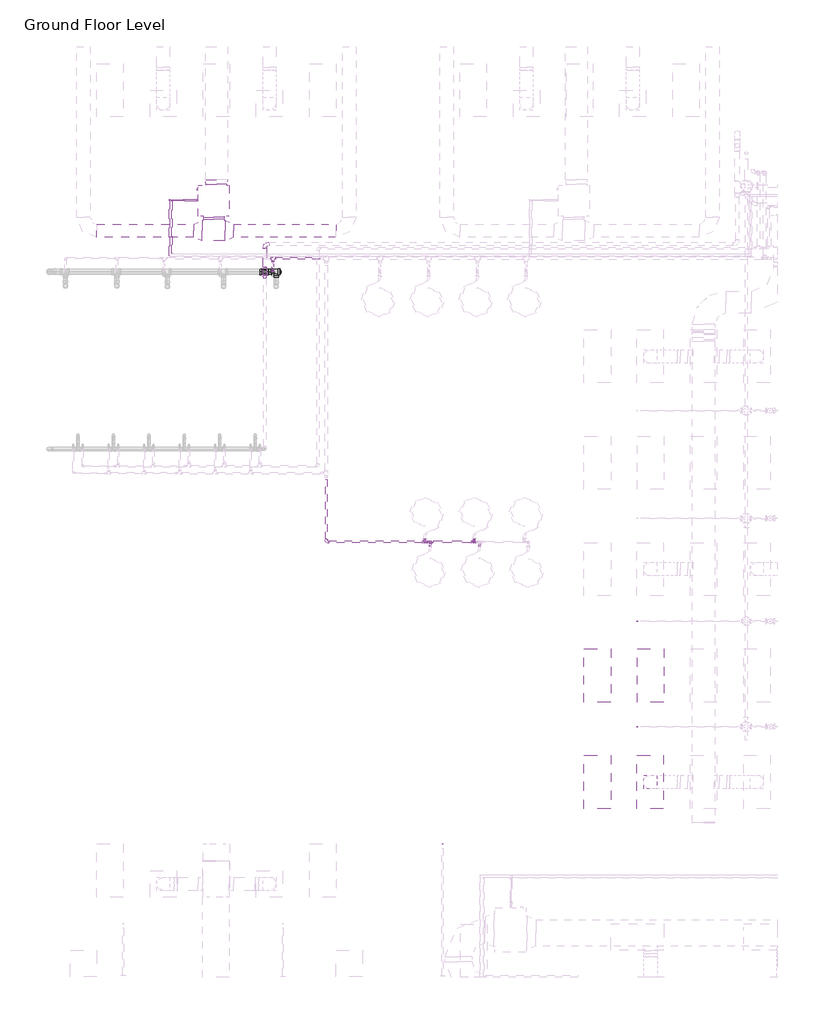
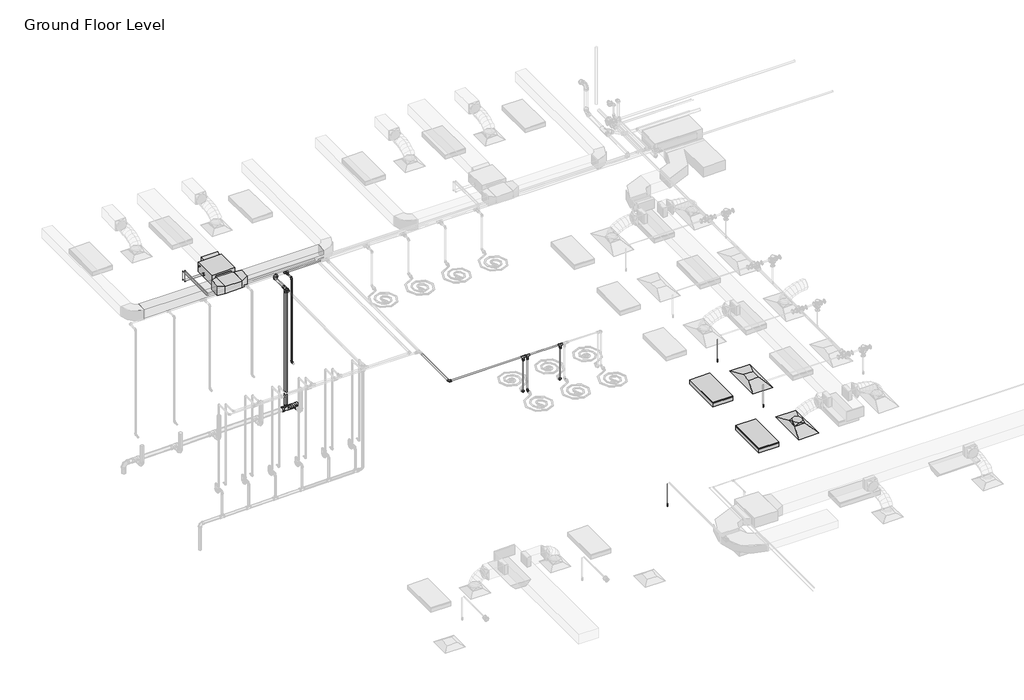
# One storey, part 43 of 74: 28 pipe segments, 24 pipe fittings, 5 duct fittings, 3 duct segments, 3 fire suppression terminals, 2 air terminals, 2 light fixtures, 1 proxy.
"""IFC4 building model written with IfcOpenShell, lengths in millimetres."""

from ifc_helpers import new_model, si_unit, point, frame, frame_2d, origin, place, context, project, spatial, polyline, circle_curve, trimmed, segment, composite_curve, outline, extrude, transform, mapped, element, save
from components import m_return_diffuser_1200x600_1200_x_600_face_300_x_300_d1983ef6, fcu_daikin_iu_bad131e0, m_rectangular_tee_standard_fa4de0e8, m_rectangular_transition_angle_45_degree_5a11b24e, m_rectangular_transition_angle_45_degree_6e5ad010, m_rectangular_to_round_transition_angle_45_degree_641efff0, m_sprinkler_dry_pendent_hosted_15_mm_dry_pendent_9bda8e11, m_troffer_light_parabolic_rectangular1_0600x1200mm_4_lamp_86473d4a, m_bend_pvc_sch_40_dwv_standard_1fdc8943, m_elbow_generic_standard_a088f956, m_elbow_generic_standard_2a704253, m_plug_pvc_sch_40_dwv_standard_6c40de1c, m_reducer_pvc_sch_40_dwv_standard_d6f2da47, m_tee_reducing_sanitary_pvc_sch_40_dwv_standard_b49161a9, m_tee_reducing_sanitary_pvc_sch_40_dwv_standard_35af4ecc, m_tee_reducing_sanitary_pvc_sch_40_dwv_standard_9cd1363b, standard_517a5a8d, standard_08ff6011, standard_d0d0b892, standard_69e4ce0e

model = new_model("IFC4")

# Units and contexts
model_context = context("Model", 3, world=origin())
ifc_project = project(units=[si_unit("LENGTHUNIT", "METRE", prefix="MILLI")], contexts=[model_context])

# Site, building, storey
site = spatial("IfcSite", under=ifc_project)
building = spatial("IfcBuilding", under=site)
storey = spatial("IfcBuildingStorey", under=building, Name="Ground Floor Level", Elevation=900.0)

# Air terminals
placement = place(None, origin())
m_return_diffuser_1200x600_1200_x_600_face_300_x_300_shape = m_return_diffuser_1200x600_1200_x_600_face_300_x_300_d1983ef6(model_context)
element("IfcAirTerminal", 1, ObjectType="M_Return Diffuser 1200x600 : 1200 x 600 Face 300 x 300 Connection", at=placement, inside=storey, context=model_context, shape_type="MappedRepresentation", body=[
    mapped(m_return_diffuser_1200x600_1200_x_600_face_300_x_300_shape, transform((-8137.2327605, 4035.2153534, 3650.0), x_axis=(0.0, 1.0, 0.0), y_axis=(-1.0, 0.0, 0.0), z_axis=(0.0, 0.0, 1.0))),
])
element("IfcAirTerminal", 2, ObjectType="M_Supply Diffuser 1200x600 : 1200 x 600 Face 300 x 300 Connection", at=placement, inside=storey, context=model_context, shape_type="MappedRepresentation", body=[
    mapped(m_return_diffuser_1200x600_1200_x_600_face_300_x_300_shape, transform((-8142.6846929, 1635.2153534, 3650.0), x_axis=(0.0, 1.0, 0.0), y_axis=(-1.0, 0.0, 0.0), z_axis=(0.0, 0.0, 1.0))),
])

# Proxy
fcu_daikin_iu_shape = fcu_daikin_iu_bad131e0(model_context)
element("IfcBuildingElementProxy", 3, Name="FCU-DAIKIN IU : 4.5kW, 230V/50Hz/1Ph", ObjectType="FCU-DAIKIN IU : 4.5kW, 230V/50Hz/1Ph", at=placement, inside=storey, context=model_context, shape_type="MappedRepresentation", body=[
    mapped(fcu_daikin_iu_shape, transform((-17997.2327605, 14745.2153534, 3934.0881511), x_axis=(-1.0, 0.0, 0.0), y_axis=(0.0, -1.0, 0.0), z_axis=(0.0, 0.0, 1.0))),
])

# Duct fittings
m_rectangular_tee_standard_shape = m_rectangular_tee_standard_fa4de0e8(model_context)
element("IfcDuctFitting", 4, ObjectType="M_Rectangular Tee : Standard", at=placement, inside=storey, context=model_context, shape_type="MappedRepresentation", body=[
    mapped(m_rectangular_tee_standard_shape, transform((-17997.2327605, 14069.8153534, 4075.2881511), x_axis=(-1.0, 0.0, 0.0), y_axis=(0.0, -1.0, 0.0), z_axis=(0.0, 0.0, 1.0))),
])
m_rectangular_transition_angle_45_degree_shape = m_rectangular_transition_angle_45_degree_5a11b24e(model_context)
element("IfcDuctFitting", 5, ObjectType="M_Rectangular Transition - Angle : 45 Degree", at=placement, inside=storey, context=model_context, shape_type="MappedRepresentation", body=[
    mapped(m_rectangular_transition_angle_45_degree_shape, transform((-17933.7327605, 15120.6153534, 4100.0006511), x_axis=(0.0, 1.0, 0.0), y_axis=(-1.0, 0.0, 0.0), z_axis=(0.0, 0.0, 1.0))),
])
m_rectangular_transition_angle_45_degree_2_shape = m_rectangular_transition_angle_45_degree_6e5ad010(model_context)
element("IfcDuctFitting", 6, ObjectType="M_Rectangular Transition - Angle : 45 Degree", at=placement, inside=storey, context=model_context, shape_type="MappedRepresentation", body=[
    mapped(m_rectangular_transition_angle_45_degree_2_shape, transform((-17741.2952605, 14069.8153534, 4075.2881511), x_axis=(1.0, 0.0, 0.0), y_axis=(0.0, 1.0, 0.0), z_axis=(0.0, 0.0, 1.0))),
])
element("IfcDuctFitting", 7, ObjectType="M_Rectangular Transition - Angle : 45 Degree", at=placement, inside=storey, context=model_context, shape_type="MappedRepresentation", body=[
    mapped(m_rectangular_transition_angle_45_degree_2_shape, transform((-18253.1702605, 14069.8153534, 4075.2881511), x_axis=(-1.0, 0.0, 0.0), y_axis=(0.0, -1.0, 0.0), z_axis=(0.0, 0.0, 1.0))),
])
m_rectangular_to_round_transition_angle_45_degree_shape = m_rectangular_to_round_transition_angle_45_degree_641efff0(model_context)
element("IfcDuctFitting", 8, ObjectType="M_Rectangular to Round Transition - Angle : 45 Degree", at=placement, inside=storey, context=model_context, shape_type="MappedRepresentation", body=[
    mapped(m_rectangular_to_round_transition_angle_45_degree_shape, transform((-8142.6846929, 1635.2153534, 3751.6), x_axis=(0.0, 0.0, 1.0), y_axis=(-1.0, 0.0, 0.0), z_axis=(0.0, -1.0, 0.0))),
])

# Duct segments
element("IfcDuctSegment", 9, ObjectType="Radius Elbows / Taps", at=placement, inside=storey, context=model_context, shape_type="SweptSolid", body=[
    extrude(outline(polyline([(-18228.1702605, 14369.8153534), (-17766.2952605, 14369.8153534), (-17766.2952605, 14325.7528534), (-18228.1702605, 14325.7528534), (-18228.1702605, 14369.8153534)])), frame((0.0, 0.0, 3968.1381511), z_axis=(0.0, 0.0, 1.0), x_axis=(1.0, 0.0, 0.0)), (0.0, 0.0, 1.0), 214.3),
])
element("IfcDuctSegment", 10, ObjectType="Radius Elbows / Taps", at=placement, inside=storey, context=model_context, shape_type="SweptSolid", body=[
    extrude(outline(polyline([(-17545.8948503, 13919.8153534), (-17545.8948503, 14219.8153534), (-15237.2327605, 14219.8153534), (-15237.2327605, 13919.8153534), (-17545.8948503, 13919.8153534)])), frame((0.0, 0.0, 3925.2881511), z_axis=(0.0, 0.0, 1.0), x_axis=(1.0, 0.0, 0.0)), (0.0, 0.0, 1.0), 300.0),
])
element("IfcDuctSegment", 11, ObjectType="Radius Elbows / Taps", at=placement, inside=storey, context=model_context, shape_type="SweptSolid", body=[
    extrude(outline(polyline([(-18448.5706707, 14219.8153534), (-18448.5706707, 13919.8153534), (-20637.2327605, 13919.8153534), (-20637.2327605, 14219.8153534), (-18448.5706707, 14219.8153534)])), frame((0.0, 0.0, 3925.2881511), z_axis=(0.0, 0.0, 1.0), x_axis=(1.0, 0.0, 0.0)), (0.0, 0.0, 1.0), 300.0),
])

# Fire suppression terminals
m_sprinkler_dry_pendent_hosted_15_mm_dry_pendent_shape = m_sprinkler_dry_pendent_hosted_15_mm_dry_pendent_9bda8e11(model_context)
element("IfcFireSuppressionTerminal", 12, ObjectType="M_Sprinkler - Dry - Pendent - Hosted : 15 mm Dry Pendent", at=placement, inside=storey, context=model_context, shape_type="MappedRepresentation", body=[
    mapped(m_sprinkler_dry_pendent_hosted_15_mm_dry_pendent_shape, transform((-8437.2327605, 5261.0372753, 3650.0), x_axis=(1.0, 0.0, 0.0), y_axis=(0.0, -1.0, 0.0), z_axis=(0.0, 0.0, -1.0))),
])
element("IfcFireSuppressionTerminal", 13, ObjectType="M_Sprinkler - Dry - Pendent - Hosted : 15 mm Dry Pendent", at=placement, inside=storey, context=model_context, shape_type="MappedRepresentation", body=[
    mapped(m_sprinkler_dry_pendent_hosted_15_mm_dry_pendent_shape, transform((-8437.2327605, 2881.5134565, 3650.0), x_axis=(1.0, 0.0, 0.0), y_axis=(0.0, -1.0, 0.0), z_axis=(0.0, 0.0, -1.0))),
])
element("IfcFireSuppressionTerminal", 14, ObjectType="M_Sprinkler - Dry - Pendent - Hosted : 15 mm Dry Pendent", at=placement, inside=storey, context=model_context, shape_type="MappedRepresentation", body=[
    mapped(m_sprinkler_dry_pendent_hosted_15_mm_dry_pendent_shape, transform((-12837.2327605, 235.2153534, 3650.0), x_axis=(1.0, 0.0, 0.0), y_axis=(0.0, -1.0, 0.0), z_axis=(0.0, 0.0, -1.0))),
])

# Light fixtures
m_troffer_light_parabolic_rectangular1_0600x1200mm_4_lamp_shape = m_troffer_light_parabolic_rectangular1_0600x1200mm_4_lamp_86473d4a(model_context)
element("IfcLightFixture", 15, ObjectType="M_Troffer Light - Parabolic Rectangular1 : 0600x1200mm(4 Lamp) - 277V 2", at=placement, inside=storey, context=model_context, shape_type="MappedRepresentation", body=[
    mapped(m_troffer_light_parabolic_rectangular1_0600x1200mm_4_lamp_shape, transform((-9396.6986926, 4053.918855, 3650.0), x_axis=(0.0, 1.0, 0.0), y_axis=(-1.0, 0.0, 0.0), z_axis=(0.0, 0.0, 1.0))),
])
element("IfcLightFixture", 16, ObjectType="M_Troffer Light - Parabolic Rectangular1 : 0600x1200mm(4 Lamp) - 277V 2", at=placement, inside=storey, context=model_context, shape_type="MappedRepresentation", body=[
    mapped(m_troffer_light_parabolic_rectangular1_0600x1200mm_4_lamp_shape, transform((-9396.6986926, 1653.918855, 3650.0), x_axis=(0.0, 1.0, 0.0), y_axis=(-1.0, 0.0, 0.0), z_axis=(0.0, 0.0, 1.0))),
])

# Pipe fittings
m_bend_pvc_sch_40_dwv_standard_shape = m_bend_pvc_sch_40_dwv_standard_1fdc8943(model_context)
element("IfcPipeFitting", 17, ObjectType="M_Bend - PVC - Sch 40 - DWV : Standard", at=placement, inside=storey, context=model_context, shape_type="MappedRepresentation", body=[
    mapped(m_bend_pvc_sch_40_dwv_standard_shape, transform((-16844.3158637, 13768.8048932, 4050.2768363), x_axis=(-0.9999500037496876, 0.0, -0.009999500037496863), y_axis=(0.0, -1.0, 0.0), z_axis=(-0.009999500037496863, 0.0, 0.9999500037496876))),
])
m_elbow_generic_standard_shape = m_elbow_generic_standard_a088f956(model_context)
element("IfcPipeFitting", 18, ObjectType="M_Elbow - Generic : Standard", at=placement, inside=storey, context=model_context, shape_type="MappedRepresentation", body=[
    mapped(m_elbow_generic_standard_shape, transform((-18945.3327605, 14745.2153534, 4034.0881511), x_axis=(-1.0, 0.0, 0.0), y_axis=(0.0, 0.0, 1.0), z_axis=(0.0, 1.0, 0.0))),
])
element("IfcPipeFitting", 19, ObjectType="M_Elbow - Generic : Standard", at=placement, inside=storey, context=model_context, shape_type="MappedRepresentation", body=[
    mapped(m_elbow_generic_standard_shape, transform((-18945.3327605, 14745.2153534, 4380.0), x_axis=(0.0, 0.0, 1.0), y_axis=(0.0, -1.0, 0.0), z_axis=(1.0, 0.0, 0.0))),
])
m_elbow_generic_standard_2_shape = m_elbow_generic_standard_2a704253(model_context)
element("IfcPipeFitting", 20, ObjectType="M_Elbow - Generic : Standard", at=placement, inside=storey, context=model_context, shape_type="MappedRepresentation", body=[
    mapped(m_elbow_generic_standard_2_shape, transform((-18995.0192947, 14770.2153534, 4365.0), x_axis=(0.0, 1.0, 0.0), y_axis=(0.0, 0.0, -1.0), z_axis=(-1.0, 0.0, 0.0))),
])
element("IfcPipeFitting", 21, ObjectType="M_Elbow - Generic : Standard", at=placement, inside=storey, context=model_context, shape_type="MappedRepresentation", body=[
    mapped(m_elbow_generic_standard_2_shape, transform((-18995.0192947, 14770.2153534, 4084.8881511), x_axis=(0.0, 0.0, -1.0), y_axis=(1.0, 0.0, 0.0), z_axis=(0.0, -1.0, 0.0))),
])
m_plug_pvc_sch_40_dwv_standard_shape = m_plug_pvc_sch_40_dwv_standard_6c40de1c(model_context)
element("IfcPipeFitting", 22, ObjectType="M_Plug - PVC - Sch 40 - DWV : Standard", at=placement, inside=storey, context=model_context, shape_type="MappedRepresentation", body=[
    mapped(m_plug_pvc_sch_40_dwv_standard_shape, transform((-16497.5246709, 13143.7240477, 252.0903992), x_axis=(0.9999500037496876, 0.0, 0.009999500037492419), y_axis=(0.0, 1.0, 0.0), z_axis=(-0.009999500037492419, 0.0, 0.9999500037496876))),
])
m_reducer_pvc_sch_40_dwv_standard_shape = m_reducer_pvc_sch_40_dwv_standard_d6f2da47(model_context)
element("IfcPipeFitting", 23, ObjectType="M_Reducer - PVC - Sch 40 - DWV : Standard", at=placement, inside=storey, context=model_context, shape_type="MappedRepresentation", body=[
    mapped(m_reducer_pvc_sch_40_dwv_standard_shape, transform((-16844.3158637, 13068.078397, 4049.9889294), x_axis=(0.0, -0.9999576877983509, -0.009199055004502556), y_axis=(1.0000000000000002, 0.0, 0.0), z_axis=(0.0, -0.009199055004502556, 0.9999576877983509))),
])
m_tee_reducing_sanitary_pvc_sch_40_dwv_standard_shape = m_tee_reducing_sanitary_pvc_sch_40_dwv_standard_b49161a9(model_context)
element("IfcPipeFitting", 24, ObjectType="M_Tee Reducing Sanitary - PVC - Sch 40 - DWV : Standard", at=placement, inside=storey, context=model_context, shape_type="MappedRepresentation", body=[
    mapped(m_tee_reducing_sanitary_pvc_sch_40_dwv_standard_shape, transform((-16586.4202262, 13143.7240477, 251.2014437), x_axis=(0.9999500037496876, 0.0, 0.009999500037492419), y_axis=(0.0, 1.0, 0.0), z_axis=(-0.009999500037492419, 0.0, 0.9999500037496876))),
])
m_tee_reducing_sanitary_pvc_sch_40_dwv_standard_2_shape = m_tee_reducing_sanitary_pvc_sch_40_dwv_standard_35af4ecc(model_context)
element("IfcPipeFitting", 25, ObjectType="M_Tee Reducing Sanitary - PVC - Sch 40 - DWV : Standard", at=placement, inside=storey, context=model_context, shape_type="MappedRepresentation", body=[
    mapped(m_tee_reducing_sanitary_pvc_sch_40_dwv_standard_2_shape, transform((-16844.3824695, 13143.7240477, 248.6218212), x_axis=(0.9999500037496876, 0.0, 0.00999950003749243), y_axis=(0.00999950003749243, 0.0, -0.9999500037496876), z_axis=(0.0, 1.0, 0.0))),
])
m_tee_reducing_sanitary_pvc_sch_40_dwv_standard_3_shape = m_tee_reducing_sanitary_pvc_sch_40_dwv_standard_9cd1363b(model_context)
element("IfcPipeFitting", 26, ObjectType="M_Tee Reducing Sanitary - PVC - Sch 40 - DWV : Standard", at=placement, inside=storey, context=model_context, shape_type="MappedRepresentation", body=[
    mapped(m_tee_reducing_sanitary_pvc_sch_40_dwv_standard_3_shape, transform((-16844.3158637, 13143.7240477, 4050.2768363), x_axis=(0.0, -1.0, 0.0), y_axis=(-2.9192257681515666e-06, 0.0, 0.9999999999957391), z_axis=(-0.9999999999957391, 0.0, -2.9192257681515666e-06))),
])
standard_shape = standard_517a5a8d(model_context)
element("IfcPipeFitting", 27, ObjectType="M_Elbow - CPVC - Sch 40 : Standard", at=placement, inside=storey, context=model_context, shape_type="MappedRepresentation", body=[
    mapped(standard_shape, transform((-16659.8589924, 13149.9865561, 4315.0), x_axis=(0.0, 0.0, 1.0), y_axis=(0.0, 1.0, 0.0), z_axis=(-1.0, 0.0, 0.0))),
])
element("IfcPipeFitting", 28, ObjectType="M_Elbow - CPVC - Sch 40 : Standard", at=placement, inside=storey, context=model_context, shape_type="MappedRepresentation", body=[
    mapped(standard_shape, transform((-16659.8589924, 13149.9865561, 1655.0), x_axis=(0.0, 0.0, -1.0), y_axis=(0.0, -1.0, 0.0), z_axis=(-1.0, 0.0, 0.0))),
])
element("IfcPipeFitting", 29, ObjectType="M_Elbow - CPVC - Sch 40 : Standard", at=placement, inside=storey, context=model_context, shape_type="MappedRepresentation", body=[
    mapped(standard_shape, transform((-13107.2327605, 7049.9865561, 3200.0), x_axis=(0.0, 0.0, -1.0), y_axis=(0.0, -1.0, 0.0), z_axis=(-1.0, 0.0, 0.0))),
])
element("IfcPipeFitting", 30, ObjectType="M_Elbow - CPVC - Sch 40 : Standard", at=placement, inside=storey, context=model_context, shape_type="MappedRepresentation", body=[
    mapped(standard_shape, transform((-13232.2327605, 7049.9865561, 3200.0), x_axis=(0.0, 0.0, -1.0), y_axis=(0.0, 1.0, 0.0), z_axis=(1.0, 0.0, 0.0))),
])
element("IfcPipeFitting", 31, ObjectType="M_Elbow - CPVC - Sch 40 : Standard", at=placement, inside=storey, context=model_context, shape_type="MappedRepresentation", body=[
    mapped(standard_shape, transform((-12122.2327605, 7049.9865561, 3200.0), x_axis=(0.0, 0.0, -1.0), y_axis=(0.0, 1.0, 0.0), z_axis=(1.0, 0.0, 0.0))),
])
standard_2_shape = standard_08ff6011(model_context)
element("IfcPipeFitting", 32, ObjectType="M_Tee - CPVC - Sch 40 : Standard", at=placement, inside=storey, context=model_context, shape_type="MappedRepresentation", body=[
    mapped(standard_2_shape, transform((-16659.8589924, 13449.9865561, 4315.0), x_axis=(-1.0, 0.0, 0.0), y_axis=(0.0, 1.0, 0.0), z_axis=(0.0, 0.0, -1.0))),
])
element("IfcPipeFitting", 33, ObjectType="M_Tee - CPVC - Sch 40 : Standard", at=placement, inside=storey, context=model_context, shape_type="MappedRepresentation", body=[
    mapped(standard_2_shape, transform((-13107.2327605, 7049.9865561, 4315.0), x_axis=(-1.0, 0.0, 0.0), y_axis=(0.0, 0.0, 1.0), z_axis=(0.0, 1.0, 0.0))),
])
element("IfcPipeFitting", 34, ObjectType="M_Tee - CPVC - Sch 40 : Standard", at=placement, inside=storey, context=model_context, shape_type="MappedRepresentation", body=[
    mapped(standard_2_shape, transform((-13232.2327605, 7049.9865561, 4315.0), x_axis=(-1.0, 0.0, 0.0), y_axis=(0.0, 0.0, 1.0), z_axis=(0.0, 1.0, 0.0))),
])
element("IfcPipeFitting", 35, ObjectType="M_Tee - CPVC - Sch 40 : Standard", at=placement, inside=storey, context=model_context, shape_type="MappedRepresentation", body=[
    mapped(standard_2_shape, transform((-12122.2327605, 7049.9865561, 4315.0), x_axis=(-1.0, 0.0, 0.0), y_axis=(0.0, 0.0, 1.0), z_axis=(0.0, 1.0, 0.0))),
])
standard_3_shape = standard_d0d0b892(model_context)
element("IfcPipeFitting", 36, ObjectType="M_Coupling Reducing - CPVC - Sch 40 : Standard", at=placement, inside=storey, context=model_context, shape_type="MappedRepresentation", body=[
    mapped(standard_3_shape, transform((-16659.8589924, 13396.0115561, 4315.0), x_axis=(0.0, -1.0, 0.0), y_axis=(1.0, 0.0, 0.0), z_axis=(0.0, 0.0, 1.0))),
])
element("IfcPipeFitting", 37, ObjectType="M_Coupling Reducing - CPVC - Sch 40 : Standard", at=placement, inside=storey, context=model_context, shape_type="MappedRepresentation", body=[
    mapped(standard_3_shape, transform((-13107.2327605, 7049.9865561, 4261.025), x_axis=(0.0, 0.0, -1.0), y_axis=(1.0, 0.0, 0.0), z_axis=(0.0, -1.0, 0.0))),
])
element("IfcPipeFitting", 38, ObjectType="M_Coupling Reducing - CPVC - Sch 40 : Standard", at=placement, inside=storey, context=model_context, shape_type="MappedRepresentation", body=[
    mapped(standard_3_shape, transform((-13232.2327605, 7049.9865561, 4261.025), x_axis=(0.0, 0.0, -1.0), y_axis=(-1.0, 0.0, 0.0), z_axis=(0.0, 1.0, 0.0))),
])
element("IfcPipeFitting", 39, ObjectType="M_Coupling Reducing - CPVC - Sch 40 : Standard", at=placement, inside=storey, context=model_context, shape_type="MappedRepresentation", body=[
    mapped(standard_3_shape, transform((-12122.2327605, 7049.9865561, 4261.025), x_axis=(0.0, 0.0, -1.0), y_axis=(-1.0, 0.0, 0.0), z_axis=(0.0, 1.0, 0.0))),
])
standard_4_shape = standard_69e4ce0e(model_context)
element("IfcPipeFitting", 40, ObjectType="M_Elbow - CPVC - Sch 40 : Standard", at=placement, inside=storey, context=model_context, shape_type="MappedRepresentation", body=[
    mapped(standard_4_shape, transform((-15455.6408298, 7049.9865561, 4315.0), x_axis=(0.0, -1.0, 0.0), y_axis=(1.0, 0.0, 0.0), z_axis=(0.0, 0.0, 1.0))),
])

# Pipe segments
element("IfcPipeSegment", 41, ObjectType="CPVC", at=placement, inside=storey, context=model_context, shape_type="SweptSolid", body=[
    extrude(outline(composite_curve([segment(trimmed(circle_curve(frame_2d((-16659.8589924, 13149.9865561)), 16.7005), [point((-16676.5594924, 13149.9865561))], [point((-16659.8589924, 13166.6870561))], False, "CARTESIAN"), True, "CONTINUOUS"), segment(trimmed(circle_curve(frame_2d((-16659.8589924, 13149.9865561)), 16.7005), [point((-16659.8589924, 13166.6870561))], [point((-16643.1584924, 13149.9865561))], False, "CARTESIAN"), True, "CONTINUOUS"), segment(trimmed(circle_curve(frame_2d((-16659.8589924, 13149.9865561)), 16.7005), [point((-16643.1584924, 13149.9865561))], [point((-16659.8589924, 13133.2860561))], False, "CARTESIAN"), True, "CONTINUOUS"), segment(trimmed(circle_curve(frame_2d((-16659.8589924, 13149.9865561)), 16.7005), [point((-16659.8589924, 13133.2860561))], [point((-16676.5594924, 13149.9865561))], False, "CARTESIAN"), True, "CONTINUOUS")], self_intersect=False)), frame((0.0, 0.0, 1698.26255), z_axis=(0.0, 0.0, 1.0), x_axis=(1.0, 0.0, 0.0)), (0.0, 0.0, 1.0), 2573.4749),
])
element("IfcPipeSegment", 42, ObjectType="CPVC", at=placement, inside=storey, context=model_context, shape_type="SweptSolid", body=[
    extrude(outline(composite_curve([segment(trimmed(circle_curve(frame_2d((4315.0, -16659.8589924)), 16.7005), [point((4315.0, -16643.1584924))], [point((4331.7005, -16659.8589924))], False, "CARTESIAN"), True, "CONTINUOUS"), segment(trimmed(circle_curve(frame_2d((4315.0, -16659.8589924)), 16.7005), [point((4331.7005, -16659.8589924))], [point((4315.0, -16676.5594924))], False, "CARTESIAN"), True, "CONTINUOUS"), segment(trimmed(circle_curve(frame_2d((4315.0, -16659.8589924)), 16.7005), [point((4315.0, -16676.5594924))], [point((4298.2995, -16659.8589924))], False, "CARTESIAN"), True, "CONTINUOUS"), segment(trimmed(circle_curve(frame_2d((4315.0, -16659.8589924)), 16.7005), [point((4298.2995, -16659.8589924))], [point((4315.0, -16643.1584924))], False, "CARTESIAN"), True, "CONTINUOUS")], self_intersect=False)), frame((0.0, 13193.2491061, 0.0), z_axis=(0.0, 1.0, 0.0), x_axis=(0.0, 0.0, 1.0)), (0.0, 0.0, 1.0), 136.643575),
])
element("IfcPipeSegment", 43, ObjectType="CPVC", at=placement, inside=storey, context=model_context, shape_type="SweptSolid", body=[
    extrude(outline(composite_curve([segment(trimmed(circle_curve(frame_2d((4315.0, -15455.6408298)), 21.082), [point((4315.0, -15476.7228298))], [point((4293.918, -15455.6408298))], False, "CARTESIAN"), True, "CONTINUOUS"), segment(trimmed(circle_curve(frame_2d((4315.0, -15455.6408298)), 21.082), [point((4293.918, -15455.6408298))], [point((4315.0, -15434.5588298))], False, "CARTESIAN"), True, "CONTINUOUS"), segment(trimmed(circle_curve(frame_2d((4315.0, -15455.6408298)), 21.082), [point((4315.0, -15434.5588298))], [point((4336.082, -15455.6408298))], False, "CARTESIAN"), True, "CONTINUOUS"), segment(trimmed(circle_curve(frame_2d((4315.0, -15455.6408298)), 21.082), [point((4336.082, -15455.6408298))], [point((4315.0, -15476.7228298))], False, "CARTESIAN"), True, "CONTINUOUS")], self_intersect=False)), frame((0.0, 7107.9303061, 0.0), z_axis=(0.0, 1.0, 0.0), x_axis=(0.0, 0.0, 1.0)), (0.0, 0.0, 1.0), 1355.4879172),
])
element("IfcPipeSegment", 44, ObjectType="CPVC", at=placement, inside=storey, context=model_context, shape_type="SweptSolid", body=[
    extrude(outline(composite_curve([segment(trimmed(circle_curve(frame_2d((13449.9865561, 4315.0)), 21.082), [point((13428.9045561, 4315.0))], [point((13449.9865561, 4336.082))], False, "CARTESIAN"), True, "CONTINUOUS"), segment(trimmed(circle_curve(frame_2d((13449.9865561, 4315.0)), 21.082), [point((13449.9865561, 4336.082))], [point((13471.0685561, 4315.0))], False, "CARTESIAN"), True, "CONTINUOUS"), segment(trimmed(circle_curve(frame_2d((13449.9865561, 4315.0)), 21.082), [point((13471.0685561, 4315.0))], [point((13449.9865561, 4293.918))], False, "CARTESIAN"), True, "CONTINUOUS"), segment(trimmed(circle_curve(frame_2d((13449.9865561, 4315.0)), 21.082), [point((13449.9865561, 4293.918))], [point((13428.9045561, 4315.0))], False, "CARTESIAN"), True, "CONTINUOUS")], self_intersect=False)), frame((-16605.8839924, 0.0, 0.0), z_axis=(1.0, 0.0, 0.0), x_axis=(0.0, 1.0, 0.0)), (0.0, 0.0, 1.0), 998.2294126),
])
element("IfcPipeSegment", 45, ObjectType="CPVC", at=placement, inside=storey, context=model_context, shape_type="SweptSolid", body=[
    extrude(outline(composite_curve([segment(trimmed(circle_curve(frame_2d((3200.0, -13107.2327605)), 16.7005), [point((3200.0, -13123.9332605))], [point((3183.2995, -13107.2327605))], False, "CARTESIAN"), True, "CONTINUOUS"), segment(trimmed(circle_curve(frame_2d((3200.0, -13107.2327605)), 16.7005), [point((3183.2995, -13107.2327605))], [point((3200.0, -13090.5322605))], False, "CARTESIAN"), True, "CONTINUOUS"), segment(trimmed(circle_curve(frame_2d((3200.0, -13107.2327605)), 16.7005), [point((3200.0, -13090.5322605))], [point((3216.7005, -13107.2327605))], False, "CARTESIAN"), True, "CONTINUOUS"), segment(trimmed(circle_curve(frame_2d((3200.0, -13107.2327605)), 16.7005), [point((3216.7005, -13107.2327605))], [point((3200.0, -13123.9332605))], False, "CARTESIAN"), True, "CONTINUOUS")], self_intersect=False)), frame((0.0, 6956.8347997, 0.0), z_axis=(0.0, 1.0, 0.0), x_axis=(0.0, 0.0, 1.0)), (0.0, 0.0, 1.0), 49.8892064),
])
element("IfcPipeSegment", 46, ObjectType="CPVC", at=placement, inside=storey, context=model_context, shape_type="SweptSolid", body=[
    extrude(outline(composite_curve([segment(trimmed(circle_curve(frame_2d((-13107.2327605, 7049.9865561)), 16.7005), [point((-13090.5322605, 7049.9865561))], [point((-13107.2327605, 7033.2860561))], False, "CARTESIAN"), True, "CONTINUOUS"), segment(trimmed(circle_curve(frame_2d((-13107.2327605, 7049.9865561)), 16.7005), [point((-13107.2327605, 7033.2860561))], [point((-13123.9332605, 7049.9865561))], False, "CARTESIAN"), True, "CONTINUOUS"), segment(trimmed(circle_curve(frame_2d((-13107.2327605, 7049.9865561)), 16.7005), [point((-13123.9332605, 7049.9865561))], [point((-13107.2327605, 7066.6870561))], False, "CARTESIAN"), True, "CONTINUOUS"), segment(trimmed(circle_curve(frame_2d((-13107.2327605, 7049.9865561)), 16.7005), [point((-13107.2327605, 7066.6870561))], [point((-13090.5322605, 7049.9865561))], False, "CARTESIAN"), True, "CONTINUOUS")], self_intersect=False)), frame((0.0, 0.0, 3243.26255), z_axis=(0.0, 0.0, 1.0), x_axis=(1.0, 0.0, 0.0)), (0.0, 0.0, 1.0), 951.643575),
])
element("IfcPipeSegment", 47, ObjectType="CPVC", at=placement, inside=storey, context=model_context, shape_type="SweptSolid", body=[
    extrude(outline(composite_curve([segment(trimmed(circle_curve(frame_2d((7049.9865561, 4315.0)), 21.082), [point((7028.9045561, 4315.0))], [point((7049.9865561, 4336.082))], False, "CARTESIAN"), True, "CONTINUOUS"), segment(trimmed(circle_curve(frame_2d((7049.9865561, 4315.0)), 21.082), [point((7049.9865561, 4336.082))], [point((7071.0685561, 4315.0))], False, "CARTESIAN"), True, "CONTINUOUS"), segment(trimmed(circle_curve(frame_2d((7049.9865561, 4315.0)), 21.082), [point((7071.0685561, 4315.0))], [point((7049.9865561, 4293.918))], False, "CARTESIAN"), True, "CONTINUOUS"), segment(trimmed(circle_curve(frame_2d((7049.9865561, 4315.0)), 21.082), [point((7049.9865561, 4293.918))], [point((7028.9045561, 4315.0))], False, "CARTESIAN"), True, "CONTINUOUS")], self_intersect=False)), frame((-13178.2577605, 0.0, 0.0), z_axis=(1.0, 0.0, 0.0), x_axis=(0.0, 1.0, 0.0)), (0.0, 0.0, 1.0), 17.05),
])
element("IfcPipeSegment", 48, ObjectType="CPVC", at=placement, inside=storey, context=model_context, shape_type="SweptSolid", body=[
    extrude(outline(composite_curve([segment(trimmed(circle_curve(frame_2d((3200.0, -13232.2327605)), 16.7005), [point((3200.0, -13215.5322605))], [point((3216.7005, -13232.2327605))], False, "CARTESIAN"), True, "CONTINUOUS"), segment(trimmed(circle_curve(frame_2d((3200.0, -13232.2327605)), 16.7005), [point((3216.7005, -13232.2327605))], [point((3200.0, -13248.9332605))], False, "CARTESIAN"), True, "CONTINUOUS"), segment(trimmed(circle_curve(frame_2d((3200.0, -13232.2327605)), 16.7005), [point((3200.0, -13248.9332605))], [point((3183.2995, -13232.2327605))], False, "CARTESIAN"), True, "CONTINUOUS"), segment(trimmed(circle_curve(frame_2d((3200.0, -13232.2327605)), 16.7005), [point((3183.2995, -13232.2327605))], [point((3200.0, -13215.5322605))], False, "CARTESIAN"), True, "CONTINUOUS")], self_intersect=False)), frame((0.0, 7093.2491061, 0.0), z_axis=(0.0, 1.0, 0.0), x_axis=(0.0, 0.0, 1.0)), (0.0, 0.0, 1.0), 30.346801),
])
element("IfcPipeSegment", 49, ObjectType="CPVC", at=placement, inside=storey, context=model_context, shape_type="SweptSolid", body=[
    extrude(outline(composite_curve([segment(trimmed(circle_curve(frame_2d((-13232.2327605, 7049.9865561)), 16.7005), [point((-13215.5322605, 7049.9865561))], [point((-13232.2327605, 7033.2860561))], False, "CARTESIAN"), True, "CONTINUOUS"), segment(trimmed(circle_curve(frame_2d((-13232.2327605, 7049.9865561)), 16.7005), [point((-13232.2327605, 7033.2860561))], [point((-13248.9332605, 7049.9865561))], False, "CARTESIAN"), True, "CONTINUOUS"), segment(trimmed(circle_curve(frame_2d((-13232.2327605, 7049.9865561)), 16.7005), [point((-13248.9332605, 7049.9865561))], [point((-13232.2327605, 7066.6870561))], False, "CARTESIAN"), True, "CONTINUOUS"), segment(trimmed(circle_curve(frame_2d((-13232.2327605, 7049.9865561)), 16.7005), [point((-13232.2327605, 7066.6870561))], [point((-13215.5322605, 7049.9865561))], False, "CARTESIAN"), True, "CONTINUOUS")], self_intersect=False)), frame((0.0, 0.0, 3243.26255), z_axis=(0.0, 0.0, 1.0), x_axis=(1.0, 0.0, 0.0)), (0.0, 0.0, 1.0), 951.643575),
])
element("IfcPipeSegment", 50, ObjectType="CPVC", at=placement, inside=storey, context=model_context, shape_type="SweptSolid", body=[
    extrude(outline(composite_curve([segment(trimmed(circle_curve(frame_2d((7049.9865561, 4315.0)), 21.082), [point((7028.9045561, 4315.0))], [point((7049.9865561, 4336.082))], False, "CARTESIAN"), True, "CONTINUOUS"), segment(trimmed(circle_curve(frame_2d((7049.9865561, 4315.0)), 21.082), [point((7049.9865561, 4336.082))], [point((7071.0685561, 4315.0))], False, "CARTESIAN"), True, "CONTINUOUS"), segment(trimmed(circle_curve(frame_2d((7049.9865561, 4315.0)), 21.082), [point((7071.0685561, 4315.0))], [point((7049.9865561, 4293.918))], False, "CARTESIAN"), True, "CONTINUOUS"), segment(trimmed(circle_curve(frame_2d((7049.9865561, 4315.0)), 21.082), [point((7049.9865561, 4293.918))], [point((7028.9045561, 4315.0))], False, "CARTESIAN"), True, "CONTINUOUS")], self_intersect=False)), frame((-15397.6970798, 0.0, 0.0), z_axis=(1.0, 0.0, 0.0), x_axis=(0.0, 1.0, 0.0)), (0.0, 0.0, 1.0), 2111.4893193),
])
element("IfcPipeSegment", 51, ObjectType="CPVC", at=placement, inside=storey, context=model_context, shape_type="SweptSolid", body=[
    extrude(outline(composite_curve([segment(trimmed(circle_curve(frame_2d((3200.0, -12122.2327605)), 16.7005), [point((3200.0, -12105.5322605))], [point((3216.7005, -12122.2327605))], False, "CARTESIAN"), True, "CONTINUOUS"), segment(trimmed(circle_curve(frame_2d((3200.0, -12122.2327605)), 16.7005), [point((3216.7005, -12122.2327605))], [point((3200.0, -12138.9332605))], False, "CARTESIAN"), True, "CONTINUOUS"), segment(trimmed(circle_curve(frame_2d((3200.0, -12122.2327605)), 16.7005), [point((3200.0, -12138.9332605))], [point((3183.2995, -12122.2327605))], False, "CARTESIAN"), True, "CONTINUOUS"), segment(trimmed(circle_curve(frame_2d((3200.0, -12122.2327605)), 16.7005), [point((3183.2995, -12122.2327605))], [point((3200.0, -12105.5322605))], False, "CARTESIAN"), True, "CONTINUOUS")], self_intersect=False)), frame((0.0, 7093.2491061, 0.0), z_axis=(0.0, 1.0, 0.0), x_axis=(0.0, 0.0, 1.0)), (0.0, 0.0, 1.0), 30.346801),
])
element("IfcPipeSegment", 52, ObjectType="CPVC", at=placement, inside=storey, context=model_context, shape_type="SweptSolid", body=[
    extrude(outline(composite_curve([segment(trimmed(circle_curve(frame_2d((-12122.2327605, 7049.9865561)), 16.7005), [point((-12105.5322605, 7049.9865561))], [point((-12122.2327605, 7033.2860561))], False, "CARTESIAN"), True, "CONTINUOUS"), segment(trimmed(circle_curve(frame_2d((-12122.2327605, 7049.9865561)), 16.7005), [point((-12122.2327605, 7033.2860561))], [point((-12138.9332605, 7049.9865561))], False, "CARTESIAN"), True, "CONTINUOUS"), segment(trimmed(circle_curve(frame_2d((-12122.2327605, 7049.9865561)), 16.7005), [point((-12138.9332605, 7049.9865561))], [point((-12122.2327605, 7066.6870561))], False, "CARTESIAN"), True, "CONTINUOUS"), segment(trimmed(circle_curve(frame_2d((-12122.2327605, 7049.9865561)), 16.7005), [point((-12122.2327605, 7066.6870561))], [point((-12105.5322605, 7049.9865561))], False, "CARTESIAN"), True, "CONTINUOUS")], self_intersect=False)), frame((0.0, 0.0, 3243.26255), z_axis=(0.0, 0.0, 1.0), x_axis=(1.0, 0.0, 0.0)), (0.0, 0.0, 1.0), 951.643575),
])
element("IfcPipeSegment", 53, ObjectType="CPVC", at=placement, inside=storey, context=model_context, shape_type="SweptSolid", body=[
    extrude(outline(composite_curve([segment(trimmed(circle_curve(frame_2d((7049.9865561, 4315.0)), 21.082), [point((7028.9045561, 4315.0))], [point((7049.9865561, 4336.082))], False, "CARTESIAN"), True, "CONTINUOUS"), segment(trimmed(circle_curve(frame_2d((7049.9865561, 4315.0)), 21.082), [point((7049.9865561, 4336.082))], [point((7071.0685561, 4315.0))], False, "CARTESIAN"), True, "CONTINUOUS"), segment(trimmed(circle_curve(frame_2d((7049.9865561, 4315.0)), 21.082), [point((7071.0685561, 4315.0))], [point((7049.9865561, 4293.918))], False, "CARTESIAN"), True, "CONTINUOUS"), segment(trimmed(circle_curve(frame_2d((7049.9865561, 4315.0)), 21.082), [point((7049.9865561, 4293.918))], [point((7028.9045561, 4315.0))], False, "CARTESIAN"), True, "CONTINUOUS")], self_intersect=False)), frame((-13053.2577605, 0.0, 0.0), z_axis=(1.0, 0.0, 0.0), x_axis=(0.0, 1.0, 0.0)), (0.0, 0.0, 1.0), 877.05),
])
element("IfcPipeSegment", 54, ObjectType="CPVC", at=placement, inside=storey, context=model_context, shape_type="SweptSolid", body=[
    extrude(outline(composite_curve([segment(trimmed(circle_curve(frame_2d((3200.0, -11997.2327605)), 16.7005), [point((3200.0, -12013.9332605))], [point((3183.2995, -11997.2327605))], False, "CARTESIAN"), True, "CONTINUOUS"), segment(trimmed(circle_curve(frame_2d((3200.0, -11997.2327605)), 16.7005), [point((3183.2995, -11997.2327605))], [point((3200.0, -11980.5322605))], False, "CARTESIAN"), True, "CONTINUOUS"), segment(trimmed(circle_curve(frame_2d((3200.0, -11997.2327605)), 16.7005), [point((3200.0, -11980.5322605))], [point((3216.7005, -11997.2327605))], False, "CARTESIAN"), True, "CONTINUOUS"), segment(trimmed(circle_curve(frame_2d((3200.0, -11997.2327605)), 16.7005), [point((3216.7005, -11997.2327605))], [point((3200.0, -12013.9332605))], False, "CARTESIAN"), True, "CONTINUOUS")], self_intersect=False)), frame((0.0, 6956.8347997, 0.0), z_axis=(0.0, 1.0, 0.0), x_axis=(0.0, 0.0, 1.0)), (0.0, 0.0, 1.0), 49.8892064),
])
element("IfcPipeSegment", 55, ObjectType="CPVC", at=placement, inside=storey, context=model_context, shape_type="SweptSolid", body=[
    extrude(outline(composite_curve([segment(trimmed(circle_curve(frame_2d((7049.9865561, 4315.0)), 21.082), [point((7028.9045561, 4315.0))], [point((7049.9865561, 4336.082))], False, "CARTESIAN"), True, "CONTINUOUS"), segment(trimmed(circle_curve(frame_2d((7049.9865561, 4315.0)), 21.082), [point((7049.9865561, 4336.082))], [point((7071.0685561, 4315.0))], False, "CARTESIAN"), True, "CONTINUOUS"), segment(trimmed(circle_curve(frame_2d((7049.9865561, 4315.0)), 21.082), [point((7071.0685561, 4315.0))], [point((7049.9865561, 4293.918))], False, "CARTESIAN"), True, "CONTINUOUS"), segment(trimmed(circle_curve(frame_2d((7049.9865561, 4315.0)), 21.082), [point((7049.9865561, 4293.918))], [point((7028.9045561, 4315.0))], False, "CARTESIAN"), True, "CONTINUOUS")], self_intersect=False)), frame((-12068.2577605, 0.0, 0.0), z_axis=(1.0, 0.0, 0.0), x_axis=(0.0, 1.0, 0.0)), (0.0, 0.0, 1.0), 17.05),
])
element("IfcPipeSegment", 56, ObjectType="Copper", at=placement, inside=storey, context=model_context, shape_type="SweptSolid", body=[
    extrude(outline(composite_curve([segment(trimmed(circle_curve(frame_2d((14770.2153534, 4084.8881511)), 3.35), [point((14766.8653534, 4084.8881511))], [point((14770.2153534, 4088.2381511))], False, "CARTESIAN"), True, "CONTINUOUS"), segment(trimmed(circle_curve(frame_2d((14770.2153534, 4084.8881511)), 3.35), [point((14770.2153534, 4088.2381511))], [point((14773.5653534, 4084.8881511))], False, "CARTESIAN"), True, "CONTINUOUS"), segment(trimmed(circle_curve(frame_2d((14770.2153534, 4084.8881511)), 3.35), [point((14773.5653534, 4084.8881511))], [point((14770.2153534, 4081.5381511))], False, "CARTESIAN"), True, "CONTINUOUS"), segment(trimmed(circle_curve(frame_2d((14770.2153534, 4084.8881511)), 3.35), [point((14770.2153534, 4081.5381511))], [point((14766.8653534, 4084.8881511))], False, "CARTESIAN"), True, "CONTINUOUS")], self_intersect=False)), frame((-18983.8817947, 0.0, 0.0), z_axis=(1.0, 0.0, 0.0), x_axis=(0.0, 1.0, 0.0)), (0.0, 0.0, 1.0), 598.5490342),
])
element("IfcPipeSegment", 57, ObjectType="Copper", at=placement, inside=storey, context=model_context, shape_type="SweptSolid", body=[
    extrude(outline(composite_curve([segment(trimmed(circle_curve(frame_2d((4365.0, -18995.0192947)), 3.35), [point((4365.0, -18991.6692947))], [point((4368.35, -18995.0192947))], False, "CARTESIAN"), True, "CONTINUOUS"), segment(trimmed(circle_curve(frame_2d((4365.0, -18995.0192947)), 3.35), [point((4368.35, -18995.0192947))], [point((4365.0, -18998.3692947))], False, "CARTESIAN"), True, "CONTINUOUS"), segment(trimmed(circle_curve(frame_2d((4365.0, -18995.0192947)), 3.35), [point((4365.0, -18998.3692947))], [point((4361.65, -18995.0192947))], False, "CARTESIAN"), True, "CONTINUOUS"), segment(trimmed(circle_curve(frame_2d((4365.0, -18995.0192947)), 3.35), [point((4361.65, -18995.0192947))], [point((4365.0, -18991.6692947))], False, "CARTESIAN"), True, "CONTINUOUS")], self_intersect=False)), frame((0.0, 13505.1560138, 0.0), z_axis=(0.0, 1.0, 0.0), x_axis=(0.0, 0.0, 1.0)), (0.0, 0.0, 1.0), 1253.9218396),
])
element("IfcPipeSegment", 58, ObjectType="Copper", at=placement, inside=storey, context=model_context, shape_type="SweptSolid", body=[
    extrude(outline(composite_curve([segment(trimmed(circle_curve(frame_2d((-18995.0192947, 14770.2153534)), 3.35), [point((-18991.6692947, 14770.2153534))], [point((-18995.0192947, 14766.8653534))], False, "CARTESIAN"), True, "CONTINUOUS"), segment(trimmed(circle_curve(frame_2d((-18995.0192947, 14770.2153534)), 3.35), [point((-18995.0192947, 14766.8653534))], [point((-18998.3692947, 14770.2153534))], False, "CARTESIAN"), True, "CONTINUOUS"), segment(trimmed(circle_curve(frame_2d((-18995.0192947, 14770.2153534)), 3.35), [point((-18998.3692947, 14770.2153534))], [point((-18995.0192947, 14773.5653534))], False, "CARTESIAN"), True, "CONTINUOUS"), segment(trimmed(circle_curve(frame_2d((-18995.0192947, 14770.2153534)), 3.35), [point((-18995.0192947, 14773.5653534))], [point((-18991.6692947, 14770.2153534))], False, "CARTESIAN"), True, "CONTINUOUS")], self_intersect=False)), frame((0.0, 0.0, 4096.0256511), z_axis=(0.0, 0.0, 1.0), x_axis=(1.0, 0.0, 0.0)), (0.0, 0.0, 1.0), 257.8368489),
])
element("IfcPipeSegment", 59, ObjectType="Copper", at=placement, inside=storey, context=model_context, shape_type="SweptSolid", body=[
    extrude(outline(composite_curve([segment(trimmed(circle_curve(frame_2d((14745.2153534, 4034.0881511)), 6.5), [point((14751.7153534, 4034.0881511))], [point((14745.2153534, 4027.5881511))], False, "CARTESIAN"), True, "CONTINUOUS"), segment(trimmed(circle_curve(frame_2d((14745.2153534, 4034.0881511)), 6.5), [point((14745.2153534, 4027.5881511))], [point((14738.7153534, 4034.0881511))], False, "CARTESIAN"), True, "CONTINUOUS"), segment(trimmed(circle_curve(frame_2d((14745.2153534, 4034.0881511)), 6.5), [point((14738.7153534, 4034.0881511))], [point((14745.2153534, 4040.5881511))], False, "CARTESIAN"), True, "CONTINUOUS"), segment(trimmed(circle_curve(frame_2d((14745.2153534, 4034.0881511)), 6.5), [point((14745.2153534, 4040.5881511))], [point((14751.7153534, 4034.0881511))], False, "CARTESIAN"), True, "CONTINUOUS")], self_intersect=False)), frame((-18931.0452605, 0.0, 0.0), z_axis=(1.0, 0.0, 0.0), x_axis=(0.0, 1.0, 0.0)), (0.0, 0.0, 1.0), 545.7125),
])
element("IfcPipeSegment", 60, ObjectType="Copper", at=placement, inside=storey, context=model_context, shape_type="SweptSolid", body=[
    extrude(outline(composite_curve([segment(trimmed(circle_curve(frame_2d((-18945.3327605, 14745.2153534)), 6.5), [point((-18951.8327605, 14745.2153534))], [point((-18945.3327605, 14751.7153534))], False, "CARTESIAN"), True, "CONTINUOUS"), segment(trimmed(circle_curve(frame_2d((-18945.3327605, 14745.2153534)), 6.5), [point((-18945.3327605, 14751.7153534))], [point((-18938.8327605, 14745.2153534))], False, "CARTESIAN"), True, "CONTINUOUS"), segment(trimmed(circle_curve(frame_2d((-18945.3327605, 14745.2153534)), 6.5), [point((-18938.8327605, 14745.2153534))], [point((-18945.3327605, 14738.7153534))], False, "CARTESIAN"), True, "CONTINUOUS"), segment(trimmed(circle_curve(frame_2d((-18945.3327605, 14745.2153534)), 6.5), [point((-18945.3327605, 14738.7153534))], [point((-18951.8327605, 14745.2153534))], False, "CARTESIAN"), True, "CONTINUOUS")], self_intersect=False)), frame((0.0, 0.0, 4048.3756511), z_axis=(0.0, 0.0, 1.0), x_axis=(1.0, 0.0, 0.0)), (0.0, 0.0, 1.0), 317.3368489),
])
element("IfcPipeSegment", 61, ObjectType="Copper", at=placement, inside=storey, context=model_context, shape_type="SweptSolid", body=[
    extrude(outline(composite_curve([segment(trimmed(circle_curve(frame_2d((4380.0, -18945.3327605)), 6.5), [point((4380.0, -18951.8327605))], [point((4373.5, -18945.3327605))], False, "CARTESIAN"), True, "CONTINUOUS"), segment(trimmed(circle_curve(frame_2d((4380.0, -18945.3327605)), 6.5), [point((4373.5, -18945.3327605))], [point((4380.0, -18938.8327605))], False, "CARTESIAN"), True, "CONTINUOUS"), segment(trimmed(circle_curve(frame_2d((4380.0, -18945.3327605)), 6.5), [point((4380.0, -18938.8327605))], [point((4386.5, -18945.3327605))], False, "CARTESIAN"), True, "CONTINUOUS"), segment(trimmed(circle_curve(frame_2d((4380.0, -18945.3327605)), 6.5), [point((4386.5, -18945.3327605))], [point((4380.0, -18951.8327605))], False, "CARTESIAN"), True, "CONTINUOUS")], self_intersect=False)), frame((0.0, 13559.5028534, 0.0), z_axis=(0.0, 1.0, 0.0), x_axis=(0.0, 0.0, 1.0)), (0.0, 0.0, 1.0), 1171.425),
])
element("IfcPipeSegment", 62, ObjectType="PVC - DWV", at=placement, inside=storey, context=model_context, shape_type="SweptSolid", body=[
    extrude(outline(composite_curve([segment(trimmed(circle_curve(frame_2d((0.0, 36.5125)), 36.5125), [point((-36.5125, 36.5125))], [point((0.0, 73.025))], False, "CARTESIAN"), True, "CONTINUOUS"), segment(trimmed(circle_curve(frame_2d((0.0, 36.5125)), 36.5125), [point((0.0, 73.025))], [point((36.5125, 36.5125))], False, "CARTESIAN"), True, "CONTINUOUS"), segment(trimmed(circle_curve(frame_2d((0.0, 36.5125)), 36.5125), [point((36.5125, 36.5125))], [point((0.0, 0.0))], False, "CARTESIAN"), True, "CONTINUOUS"), segment(trimmed(circle_curve(frame_2d((0.0, 36.5125)), 36.5125), [point((0.0, 0.0))], [point((-36.5125, 36.5125))], False, "CARTESIAN"), True, "CONTINUOUS")], self_intersect=False)), frame((-16844.3166754, 13107.2115477, 367.13979), z_axis=(3.079824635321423e-07, 0.0, 0.9999999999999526), x_axis=(0.9999999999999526, 0.0, -3.079824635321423e-07)), (0.0, 0.0, 1.0), 3583.1690776),
])
element("IfcPipeSegment", 63, ObjectType="PVC - DWV", at=placement, inside=storey, context=model_context, shape_type="SweptSolid", body=[
    extrude(outline(composite_curve([segment(trimmed(circle_curve(frame_2d((0.0, -57.15)), 57.15), [point((0.0, 0.0))], [point((57.15, -57.15))], False, "CARTESIAN"), True, "CONTINUOUS"), segment(trimmed(circle_curve(frame_2d((0.0, -57.15)), 57.15), [point((57.15, -57.15))], [point((0.0, -114.3))], False, "CARTESIAN"), True, "CONTINUOUS"), segment(trimmed(circle_curve(frame_2d((0.0, -57.15)), 57.15), [point((0.0, -114.3))], [point((-57.15, -57.15))], False, "CARTESIAN"), True, "CONTINUOUS"), segment(trimmed(circle_curve(frame_2d((0.0, -57.15)), 57.15), [point((-57.15, -57.15))], [point((0.0, 0.0))], False, "CARTESIAN"), True, "CONTINUOUS")], self_intersect=False)), frame((-16755.9725021, 13200.8740477, 249.5059209), z_axis=(0.9999500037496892, 0.0, 0.009999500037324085), x_axis=(0.009999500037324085, 0.0, -0.9999500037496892)), (0.0, 0.0, 1.0), 48.9107533),
])
element("IfcPipeSegment", 64, ObjectType="PVC - DWV", at=placement, inside=storey, context=model_context, shape_type="SweptSolid", body=[
    extrude(outline(composite_curve([segment(trimmed(circle_curve(frame_2d((4050.2768363, -16844.3158637)), 36.5125), [point((4050.2768363, -16807.8033637))], [point((4086.7893363, -16844.3158637))], False, "CARTESIAN"), True, "CONTINUOUS"), segment(trimmed(circle_curve(frame_2d((4050.2768363, -16844.3158637)), 36.5125), [point((4086.7893363, -16844.3158637))], [point((4050.2768363, -16880.8283637))], False, "CARTESIAN"), True, "CONTINUOUS"), segment(trimmed(circle_curve(frame_2d((4050.2768363, -16844.3158637)), 36.5125), [point((4050.2768363, -16880.8283637))], [point((4013.7643363, -16844.3158637))], False, "CARTESIAN"), True, "CONTINUOUS"), segment(trimmed(circle_curve(frame_2d((4050.2768363, -16844.3158637)), 36.5125), [point((4013.7643363, -16844.3158637))], [point((4050.2768363, -16807.8033637))], False, "CARTESIAN"), True, "CONTINUOUS")], self_intersect=False)), frame((0.0, 13241.5371665, 0.0), z_axis=(0.0, 1.0, 0.0), x_axis=(0.0, 0.0, 1.0)), (0.0, 0.0, 1.0), 428.2536642),
])
element("IfcPipeSegment", 65, ObjectType="PVC - DWV", at=placement, inside=storey, context=model_context, shape_type="SweptSolid", body=[
    extrude(outline(composite_curve([segment(trimmed(circle_curve(frame_2d((4049.9889294, -16844.3158637)), 36.5125), [point((4049.9889294, -16880.8283637))], [point((4013.4764294, -16844.3158637))], False, "CARTESIAN"), True, "CONTINUOUS"), segment(trimmed(circle_curve(frame_2d((4049.9889294, -16844.3158637)), 36.5125), [point((4013.4764294, -16844.3158637))], [point((4049.9889294, -16807.8033637))], False, "CARTESIAN"), True, "CONTINUOUS"), segment(trimmed(circle_curve(frame_2d((4049.9889294, -16844.3158637)), 36.5125), [point((4049.9889294, -16807.8033637))], [point((4086.5014294, -16844.3158637))], False, "CARTESIAN"), True, "CONTINUOUS"), segment(trimmed(circle_curve(frame_2d((4049.9889294, -16844.3158637)), 36.5125), [point((4086.5014294, -16844.3158637))], [point((4049.9889294, -16880.8283637))], False, "CARTESIAN"), True, "CONTINUOUS")], self_intersect=False)), frame((0.0, 13068.078397, 0.0), z_axis=(0.0, 1.0, 0.0), x_axis=(0.0, 0.0, 1.0)), (0.0, 0.0, 1.0), 4.2961132),
])
element("IfcPipeSegment", 66, ObjectType="Steel flanged", at=placement, inside=storey, context=model_context, shape_type="SweptSolid", body=[
    extrude(outline(composite_curve([segment(trimmed(circle_curve(frame_2d((-8437.2327605, 5261.0372753)), 10.668), [point((-8447.9007605, 5261.0372753))], [point((-8437.2327605, 5271.7052753))], False, "CARTESIAN"), True, "CONTINUOUS"), segment(trimmed(circle_curve(frame_2d((-8437.2327605, 5261.0372753)), 10.668), [point((-8437.2327605, 5271.7052753))], [point((-8426.5647605, 5261.0372753))], False, "CARTESIAN"), True, "CONTINUOUS"), segment(trimmed(circle_curve(frame_2d((-8437.2327605, 5261.0372753)), 10.668), [point((-8426.5647605, 5261.0372753))], [point((-8437.2327605, 5250.3692753))], False, "CARTESIAN"), True, "CONTINUOUS"), segment(trimmed(circle_curve(frame_2d((-8437.2327605, 5261.0372753)), 10.668), [point((-8437.2327605, 5250.3692753))], [point((-8447.9007605, 5261.0372753))], False, "CARTESIAN"), True, "CONTINUOUS")], self_intersect=False)), frame((0.0, 0.0, 3650.0), z_axis=(0.0, 0.0, 1.0), x_axis=(1.0, 0.0, 0.0)), (0.0, 0.0, 1.0), 616.9914062),
])
element("IfcPipeSegment", 67, ObjectType="Steel flanged", at=placement, inside=storey, context=model_context, shape_type="SweptSolid", body=[
    extrude(outline(composite_curve([segment(trimmed(circle_curve(frame_2d((-8437.2327605, 2881.5134565)), 10.668), [point((-8447.9007605, 2881.5134565))], [point((-8437.2327605, 2892.1814565))], False, "CARTESIAN"), True, "CONTINUOUS"), segment(trimmed(circle_curve(frame_2d((-8437.2327605, 2881.5134565)), 10.668), [point((-8437.2327605, 2892.1814565))], [point((-8426.5647605, 2881.5134565))], False, "CARTESIAN"), True, "CONTINUOUS"), segment(trimmed(circle_curve(frame_2d((-8437.2327605, 2881.5134565)), 10.668), [point((-8426.5647605, 2881.5134565))], [point((-8437.2327605, 2870.8454565))], False, "CARTESIAN"), True, "CONTINUOUS"), segment(trimmed(circle_curve(frame_2d((-8437.2327605, 2881.5134565)), 10.668), [point((-8437.2327605, 2870.8454565))], [point((-8447.9007605, 2881.5134565))], False, "CARTESIAN"), True, "CONTINUOUS")], self_intersect=False)), frame((0.0, 0.0, 3650.0), z_axis=(0.0, 0.0, 1.0), x_axis=(1.0, 0.0, 0.0)), (0.0, 0.0, 1.0), 616.9914062),
])
element("IfcPipeSegment", 68, ObjectType="Steel flanged", at=placement, inside=storey, context=model_context, shape_type="SweptSolid", body=[
    extrude(outline(composite_curve([segment(trimmed(circle_curve(frame_2d((-12837.2327605, 235.2153534)), 10.668), [point((-12847.9007605, 235.2153534))], [point((-12837.2327605, 245.8833534))], False, "CARTESIAN"), True, "CONTINUOUS"), segment(trimmed(circle_curve(frame_2d((-12837.2327605, 235.2153534)), 10.668), [point((-12837.2327605, 245.8833534))], [point((-12826.5647605, 235.2153534))], False, "CARTESIAN"), True, "CONTINUOUS"), segment(trimmed(circle_curve(frame_2d((-12837.2327605, 235.2153534)), 10.668), [point((-12826.5647605, 235.2153534))], [point((-12837.2327605, 224.5473534))], False, "CARTESIAN"), True, "CONTINUOUS"), segment(trimmed(circle_curve(frame_2d((-12837.2327605, 235.2153534)), 10.668), [point((-12837.2327605, 224.5473534))], [point((-12847.9007605, 235.2153534))], False, "CARTESIAN"), True, "CONTINUOUS")], self_intersect=False)), frame((0.0, 0.0, 3650.0), z_axis=(0.0, 0.0, 1.0), x_axis=(1.0, 0.0, 0.0)), (0.0, 0.0, 1.0), 616.9914062),
])

save(model, "model.ifc")
